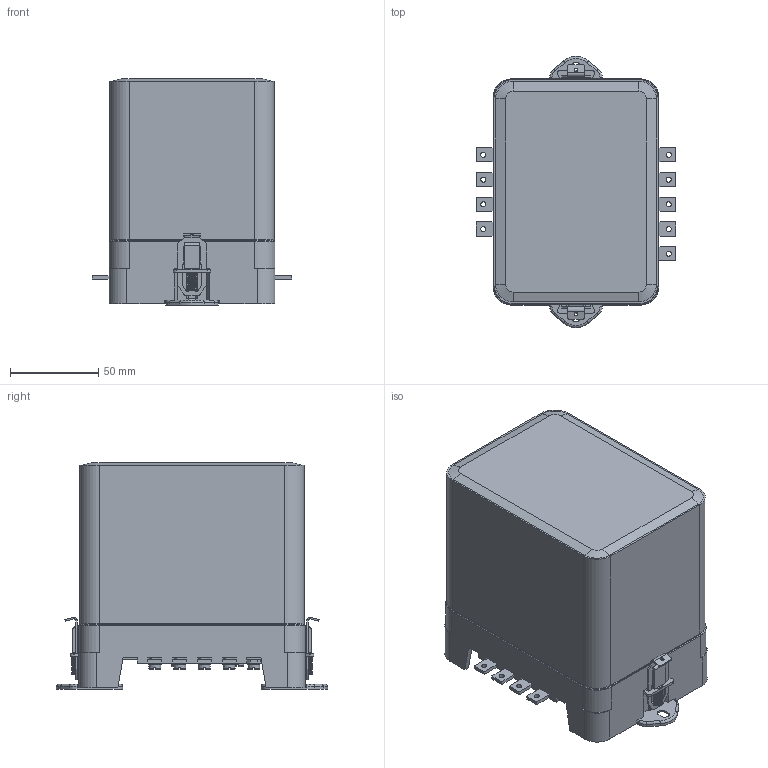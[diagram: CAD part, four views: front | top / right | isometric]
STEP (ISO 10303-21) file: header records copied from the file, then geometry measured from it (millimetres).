
FILE_DESCRIPTION(('STEP AP214'), '1');
FILE_NAME('ÐÂ112, ÐÂ128, ÐÂ132, ÐÂ142 ï.ï', '', ('UNSPECIFIED'), ('UNSPECIFIED'), 'ASCON STEP Converter 1.3', 'ASCON Math Kernel', '');
FILE_SCHEMA(('AUTOMOTIVE_DESIGN { 1 0 10303 214 3 1 1}'));
Length unit declared in the file: millimetre
Bounding box: 113 x 153.6 x 128.3 mm (x, y, z)
Volume: 228015.2 mm3; surface area: 161946.3 mm2
Topology: 2 solids, 2 shells, 1326 faces, 3475 edges, 2147 vertices
Faces by surface type: plane 755, cylinder 373, torus 125, cone 36, sphere 31, bspline 6
Full cylindrical faces by diameter (mm): 2 x2, 2.917 x9, 3.3 x9, 3.5 x2, 4 x20, 4.3 x11, 4.5 x2, 5.5 x16, 8 x2
Entity records: 59478 total; most frequent: CARTESIAN_POINT 16451, DIRECTION 6772, ORIENTED_EDGE 6640, EDGE_CURVE 3320, AXIS2_PLACEMENT_3D 2348, VERTEX_POINT 2141, LINE 2076, VECTOR 2076
